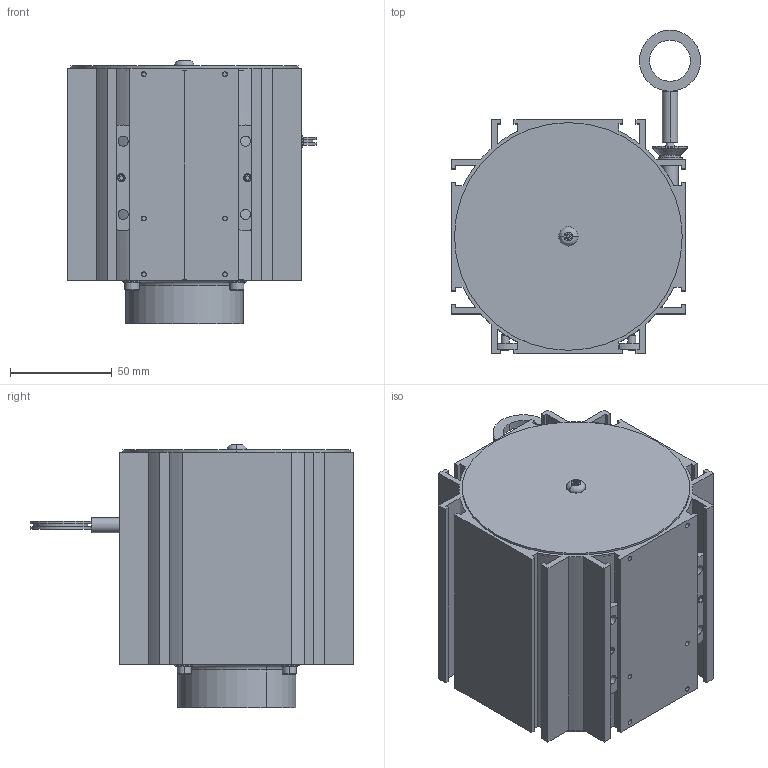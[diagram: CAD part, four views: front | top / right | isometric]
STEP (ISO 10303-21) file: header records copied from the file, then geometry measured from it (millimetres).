
FILE_DESCRIPTION((''),'2;1');
FILE_NAME('WDS_7500_P115_M_SO_SW0002','2010-10-12T',('15000261'),(''),'PRO/ENGINEER BY PARAMETRIC TECHNOLOGY CORPORATION, 2009440','PRO/ENGINEER BY PARAMETRIC TECHNOLOGY CORPORATION, 2009440','');
FILE_SCHEMA(('CONFIG_CONTROL_DESIGN'));
Length unit declared in the file: millimetre
Products named in the file (1): WDS_7500_P115_M_SO_SW0002
Bounding box: 122.5 x 159 x 129.45 mm (x, y, z)
Volume: 151615.9 mm3; surface area: 168753.9 mm2
Topology: 16 solids, 18 shells, 936 faces, 2602 edges, 1664 vertices
Faces by surface type: plane 520, cylinder 248, cone 68, torus 42, sphere 36, revolution 16, extrusion 4, bspline 2
Entity records: 33149 total; most frequent: CARTESIAN_POINT 9229, ORIENTED_EDGE 5100, DIRECTION 4866, EDGE_CURVE 2550, AXIS2_PLACEMENT_3D 1802, VERTEX_POINT 1664, VECTOR 1246, LINE 1242
